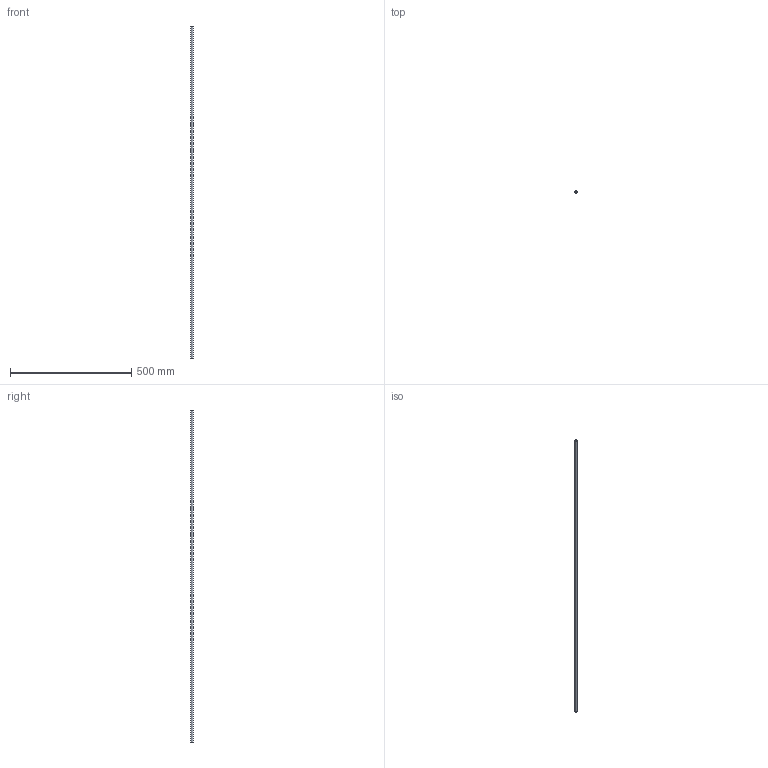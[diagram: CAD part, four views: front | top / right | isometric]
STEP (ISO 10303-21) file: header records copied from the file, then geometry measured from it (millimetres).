
FILE_DESCRIPTION(('FreeCAD Model'),'2;1');
FILE_NAME('Open CASCADE Shape Model','2026-10-09T19:38:38',(''),(''), 'Open CASCADE STEP processor 7.8','FreeCAD','Unknown');
FILE_SCHEMA(('AUTOMOTIVE_DESIGN { 1 0 10303 214 1 1 1 1 }'));
Length unit declared in the file: millimetre
Products named in the file (1): Body
Bounding box: 9.04 x 9.04 x 1370.13 mm (x, y, z)
Volume: 44942.6 mm3; surface area: 66211.2 mm2
Topology: 1 solids, 1 shells, 4 faces, 6 edges, 4 vertices
Faces by surface type: cylinder 2, plane 2
Full cylindrical faces by diameter (mm): 6.325 x1, 9.042 x1
Entity records: 120 total; most frequent: DIRECTION 20, CARTESIAN_POINT 15, ORIENTED_EDGE 12, AXIS2_PLACEMENT_3D 9, FACE_BOUND 6, EDGE_LOOP 6, EDGE_CURVE 6, ADVANCED_FACE 4
